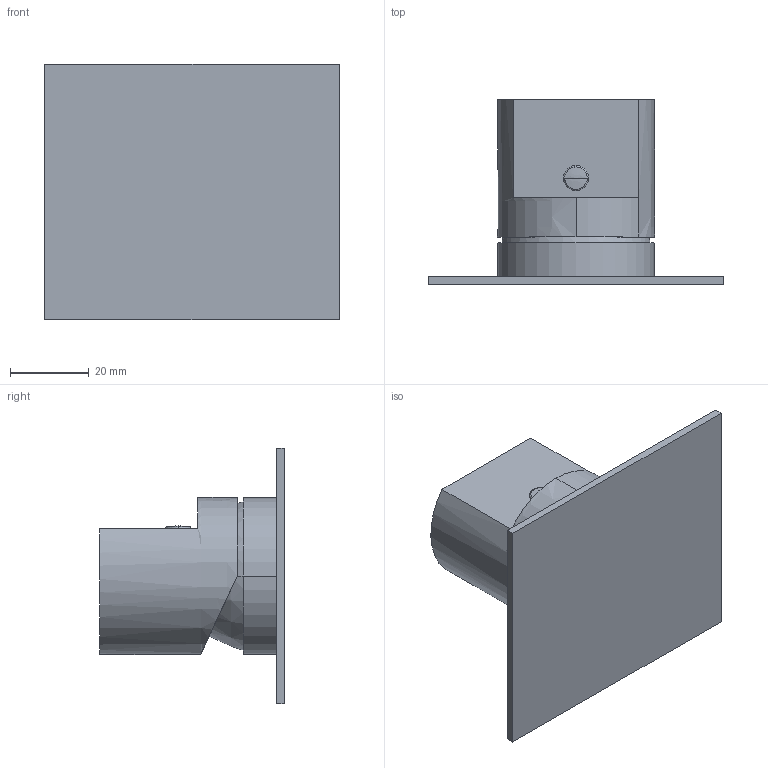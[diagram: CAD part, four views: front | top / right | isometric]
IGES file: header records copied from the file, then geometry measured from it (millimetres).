
Start section:  PTC IGES file: 89427.igs
Global section: file name: 89427.igs; native system: Creo Parametric by PTC Inc.; preprocessor: 2022014; author: carloff; organization: Unknown; date: 20251121.105921; units: millimetre
Bounding box: 75 x 47 x 65 mm (x, y, z)
Surface area: 22128.5 mm2 (no closed solid volume)
Topology: 0 solids, 0 shells, 122 faces, 664 edges, 658 vertices
Faces by surface type: bspline 68, revolution 54
